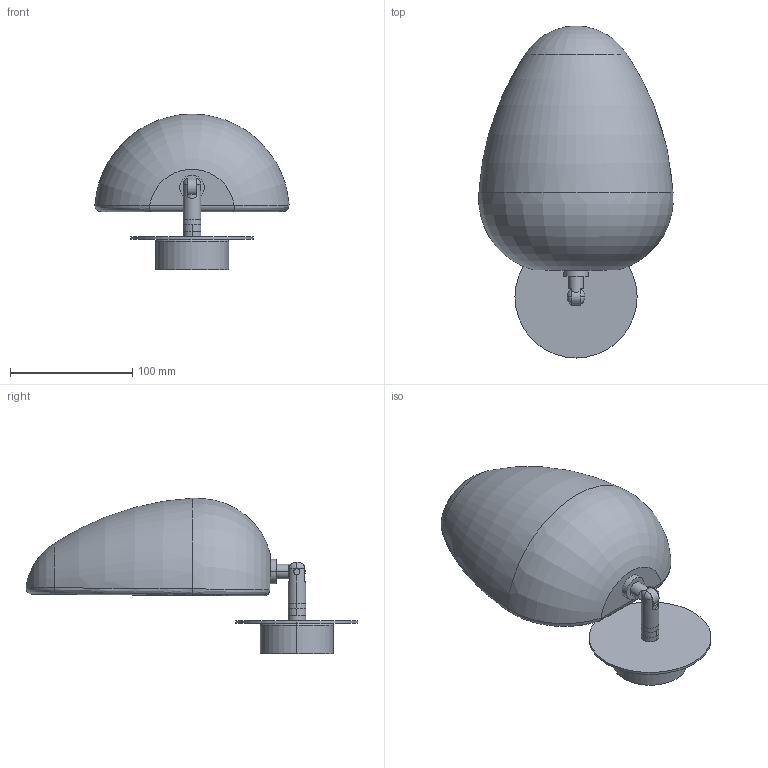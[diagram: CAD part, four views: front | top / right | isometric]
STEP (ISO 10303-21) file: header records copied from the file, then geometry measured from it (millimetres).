
FILE_DESCRIPTION (( 'STEP AP214' ), '1' );
FILE_NAME ('Aplique_KEZO.STEP', '2023-10-17T09:49:03', ( '' ), ( '' ), 'SwSTEP 2.0', 'SolidWorks 2018', '' );
FILE_SCHEMA (( 'AUTOMOTIVE_DESIGN' ));
Length unit declared in the file: millimetre
Products named in the file (13): Rotula2; Pieza4-floron; Cupula; Aplique_KEZO; Rotula1; tubo-rotula; luz
Assembly tree (6 placements, depth 2):
  Rotula2
  Aplique_KEZO
    Pieza4-floron
    Rotula1
    Rotula2
    tubo-rotula
    Cupula
    luz
  Pieza4-floron
  Cupula
  tubo-rotula
Bounding box: 159.1 x 271.79 x 127.41 mm (x, y, z)
Volume: 296043.7 mm3; surface area: 153359.7 mm2
Topology: 10 solids, 10 shells, 119 faces, 275 edges, 177 vertices
Faces by surface type: cylinder 50, plane 31, torus 25, bspline 9, cone 4
Entity records: 5227 total; most frequent: CARTESIAN_POINT 2148, DIRECTION 584, ORIENTED_EDGE 548, EDGE_CURVE 274, AXIS2_PLACEMENT_3D 255, VERTEX_POINT 177, CIRCLE 135, EDGE_LOOP 135
